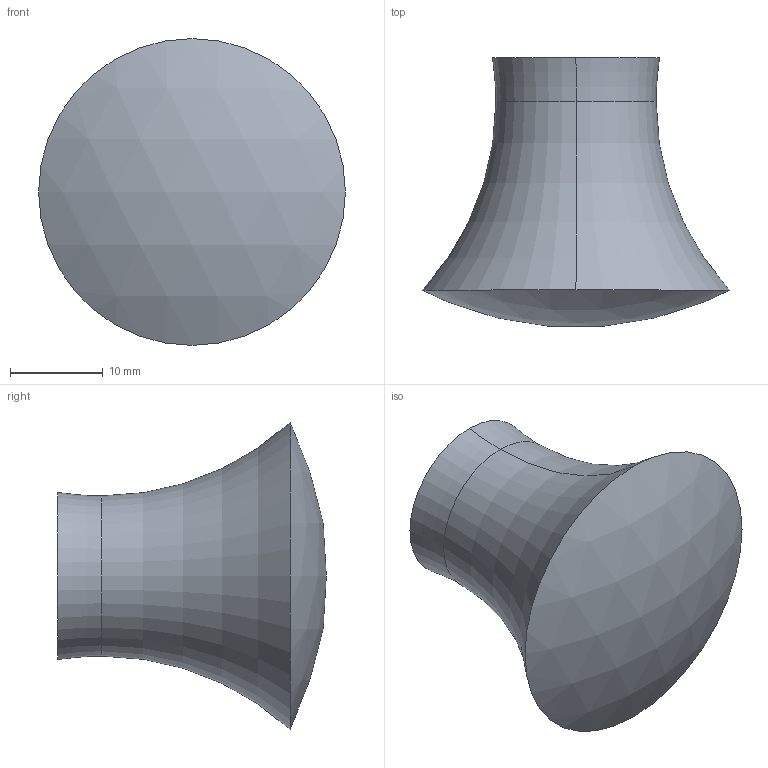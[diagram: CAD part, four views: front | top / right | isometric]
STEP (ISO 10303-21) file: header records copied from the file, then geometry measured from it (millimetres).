
FILE_DESCRIPTION( ( '' ), '1' );
FILE_NAME( 'C:/Documents and Settings/Nikhil/Desktop/Nik/Done/115277.stp', '2013-10-23T12:38:07', ( '' ), ( '' ), ' ', ' ', ' ' );
FILE_SCHEMA( ( 'automotive_design' ) );
Length unit declared in the file: millimetre
Products named in the file (1): 1
Bounding box: 33 x 28.89 x 33 mm (x, y, z)
Volume: 10951.2 mm3; surface area: 3101.3 mm2
Topology: 1 solids, 1 shells, 9 faces, 16 edges, 10 vertices
Faces by surface type: torus 4, cylinder 2, plane 2, sphere 1
Entity records: 454 total; most frequent: DIRECTION 50, STYLED_ITEM 36, PRESENTATION_STYLE_ASSIGNMENT 36, CARTESIAN_POINT 36, COLOUR_RGB 36, ORIENTED_EDGE 32, AXIS2_PLACEMENT_3D 24, EDGE_CURVE 16
